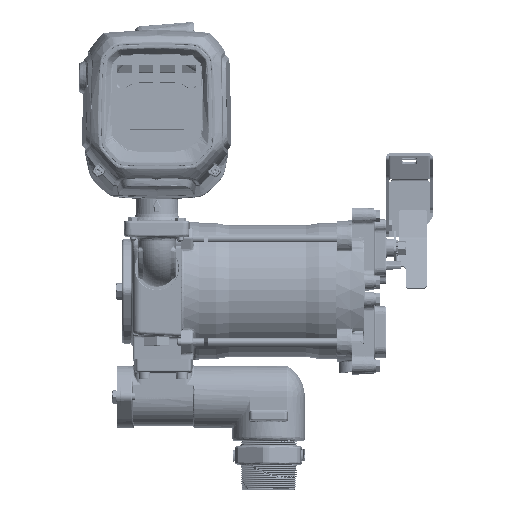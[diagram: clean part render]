
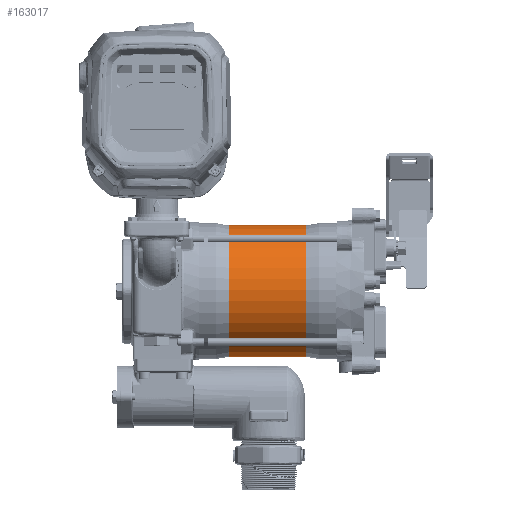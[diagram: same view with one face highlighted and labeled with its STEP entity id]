
A CAD part, top view. The second image highlights one B-rep face of the part: STEP entity #163017.
In plain terms, the highlighted cylindrical face has radius 69.85 mm (diameter 139.7 mm), a full revolution.
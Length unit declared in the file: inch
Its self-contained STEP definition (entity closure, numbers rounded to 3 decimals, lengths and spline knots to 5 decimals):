
#32412=FACE_OUTER_BOUND('',#41902,.T.);
#41902=EDGE_LOOP('',(#134490,#134491,#134492,#134493));
#50251=LINE('',#462936,#58857);
#58857=VECTOR('',#198712,2.75);
#66996=CIRCLE('',#174664,2.75);
#66997=CIRCLE('',#174665,2.75);
#77096=VERTEX_POINT('',#462933);
#77097=VERTEX_POINT('',#462935);
#97361=EDGE_CURVE('',#77096,#77096,#66996,.T.);
#97362=EDGE_CURVE('',#77096,#77097,#50251,.T.);
#97363=EDGE_CURVE('',#77097,#77097,#66997,.T.);
#134490=ORIENTED_EDGE('',*,*,#97361,.F.);
#134491=ORIENTED_EDGE('',*,*,#97362,.T.);
#134492=ORIENTED_EDGE('',*,*,#97363,.T.);
#134493=ORIENTED_EDGE('',*,*,#97362,.F.);
#157186=CYLINDRICAL_SURFACE('',#174663,2.75);
#163017=ADVANCED_FACE('',(#32412),#157186,.T.);
#174663=AXIS2_PLACEMENT_3D('',#462932,#198708,#198709);
#174664=AXIS2_PLACEMENT_3D('',#462934,#198710,#198711);
#174665=AXIS2_PLACEMENT_3D('',#462937,#198713,#198714);
#198708=DIRECTION('center_axis',(-1.,0.,
-0.001));
#198709=DIRECTION('ref_axis',(0.,1.,-0.015));
#198710=DIRECTION('center_axis',(-1.,0.,
-0.001));
#198711=DIRECTION('ref_axis',(0.,1.,-0.015));
#198712=DIRECTION('',(1.,0.,0.001));
#198713=DIRECTION('center_axis',(-1.,0.,
-0.001));
#198714=DIRECTION('ref_axis',(0.,1.,-0.015));
#462932=CARTESIAN_POINT('Origin',(-6.49204,-0.33602,
2.22446));
#462933=CARTESIAN_POINT('',(-8.10996,-3.08573,2.26281));
#462934=CARTESIAN_POINT('Origin',(-8.10991,-0.33602,
2.22275));
#462935=CARTESIAN_POINT('',(-4.8742,-3.08573,2.26625));
#462936=CARTESIAN_POINT('',(-6.49208,-3.08573,2.26453));
#462937=CARTESIAN_POINT('Origin',(-4.87416,-0.33602,
2.22618));
